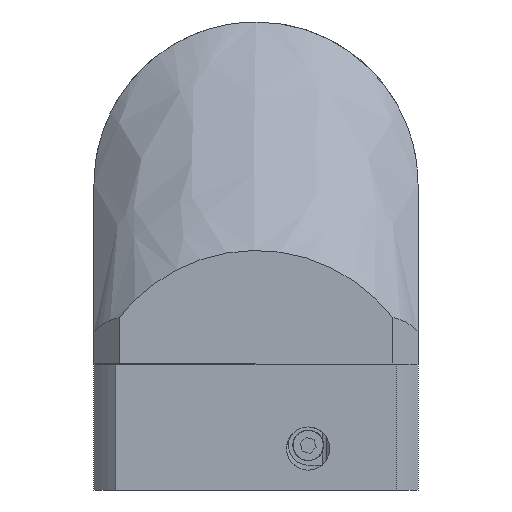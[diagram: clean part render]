
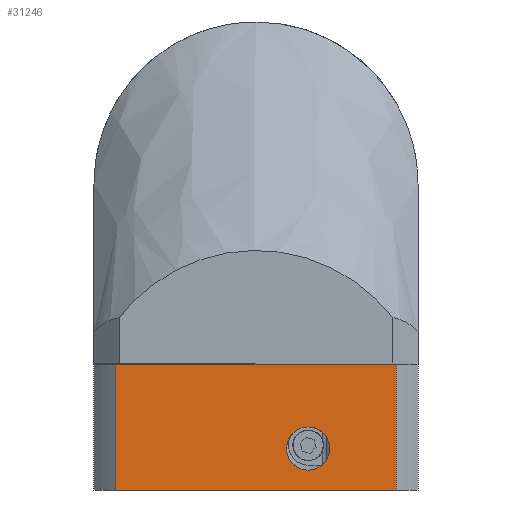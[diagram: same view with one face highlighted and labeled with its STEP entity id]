
A CAD part, front view. The second image highlights one B-rep face of the part: STEP entity #31246.
In plain terms, the highlighted planar face has unit normal (0, -1, 0) as drawn and (0, 0, 1) by its records, which use the part's own axes.
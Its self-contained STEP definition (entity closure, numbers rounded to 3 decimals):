
#687 = DIRECTION ( 'NONE',  ( 0., 0., 1. ) ) ;
#2014 = ORIENTED_EDGE ( 'NONE', *, *, #21950, .T. ) ;
#2053 = VERTEX_POINT ( 'NONE', #6474 ) ;
#3488 = DIRECTION ( 'NONE',  ( 0., -1., 0. ) ) ;
#3887 = VERTEX_POINT ( 'NONE', #11745 ) ;
#3968 = EDGE_CURVE ( 'NONE', #22329, #22515, #23449, .T. ) ;
#4681 = EDGE_CURVE ( 'NONE', #3887, #12898, #14961, .T. ) ;
#4932 = EDGE_CURVE ( 'NONE', #11201, #3887, #19129, .T. ) ;
#5959 = VECTOR ( 'NONE', #24768, 1000. ) ;
#6136 = LINE ( 'NONE', #13408, #31743 ) ;
#6474 = CARTESIAN_POINT ( 'NONE',  ( 0., 38.926, 45. ) ) ;
#7179 = EDGE_CURVE ( 'NONE', #12898, #2053, #16003, .T. ) ;
#7269 = CARTESIAN_POINT ( 'NONE',  ( 35., 59.5, 45. ) ) ;
#7371 = EDGE_LOOP ( 'NONE', ( #27890, #22112 ) ) ;
#9913 = DIRECTION ( 'NONE',  ( 1., 0., 0. ) ) ;
#9952 = DIRECTION ( 'NONE',  ( 0., 0., -1. ) ) ;
#9974 = CARTESIAN_POINT ( 'NONE',  ( 11.5, -14.5, 45. ) ) ;
#10837 = CARTESIAN_POINT ( 'NONE',  ( 11.5, -14.5, 45. ) ) ;
#11201 = VERTEX_POINT ( 'NONE', #12403 ) ;
#11745 = CARTESIAN_POINT ( 'NONE',  ( 35., -38.926, 45. ) ) ;
#12403 = CARTESIAN_POINT ( 'NONE',  ( 0., -38.926, 45. ) ) ;
#12898 = VERTEX_POINT ( 'NONE', #20907 ) ;
#12995 = AXIS2_PLACEMENT_3D ( 'NONE', #9974, #9952, #9913 ) ;
#13024 = PLANE ( 'NONE',  #14506 ) ;
#13359 = DIRECTION ( 'NONE',  ( 1., 0., 0. ) ) ;
#13408 = CARTESIAN_POINT ( 'NONE',  ( 0., -45., 45. ) ) ;
#13885 = ORIENTED_EDGE ( 'NONE', *, *, #4681, .T. ) ;
#14506 = AXIS2_PLACEMENT_3D ( 'NONE', #15654, #687, #18163 ) ;
#14914 = FACE_BOUND ( 'NONE', #7371, .T. ) ;
#14961 = LINE ( 'NONE', #7269, #5959 ) ;
#15654 = CARTESIAN_POINT ( 'NONE',  ( 59., -45., 45. ) ) ;
#15971 = VECTOR ( 'NONE', #27692, 1000. ) ;
#16003 = LINE ( 'NONE', #27309, #15971 ) ;
#16357 = ORIENTED_EDGE ( 'NONE', *, *, #4932, .T. ) ;
#18163 = DIRECTION ( 'NONE',  ( 1., 0., 0. ) ) ;
#18167 = ORIENTED_EDGE ( 'NONE', *, *, #7179, .T. ) ;
#19129 = LINE ( 'NONE', #31616, #26082 ) ;
#20907 = CARTESIAN_POINT ( 'NONE',  ( 35., 38.926, 45. ) ) ;
#21534 = FACE_OUTER_BOUND ( 'NONE', #21930, .T. ) ;
#21930 = EDGE_LOOP ( 'NONE', ( #16357, #13885, #18167, #2014 ) ) ;
#21950 = EDGE_CURVE ( 'NONE', #2053, #11201, #6136, .T. ) ;
#22112 = ORIENTED_EDGE ( 'NONE', *, *, #25173, .T. ) ;
#22329 = VERTEX_POINT ( 'NONE', #22558 ) ;
#22515 = VERTEX_POINT ( 'NONE', #23413 ) ;
#22558 = CARTESIAN_POINT ( 'NONE',  ( 17.5, -14.5, 45. ) ) ;
#23413 = CARTESIAN_POINT ( 'NONE',  ( 5.5, -14.5, 45. ) ) ;
#23449 = CIRCLE ( 'NONE', #12995, 6. ) ;
#24300 = AXIS2_PLACEMENT_3D ( 'NONE', #10837, #28257, #13359 ) ;
#24768 = DIRECTION ( 'NONE',  ( 0., 1., 0. ) ) ;
#25173 = EDGE_CURVE ( 'NONE', #22515, #22329, #27508, .T. ) ;
#26082 = VECTOR ( 'NONE', #31324, 1000. ) ;
#27309 = CARTESIAN_POINT ( 'NONE',  ( 59., 38.926, 45. ) ) ;
#27508 = CIRCLE ( 'NONE', #24300, 6. ) ;
#27692 = DIRECTION ( 'NONE',  ( -1., 0., 0. ) ) ;
#27890 = ORIENTED_EDGE ( 'NONE', *, *, #3968, .T. ) ;
#28257 = DIRECTION ( 'NONE',  ( 0., 0., -1. ) ) ;
#31246 = ADVANCED_FACE ( 'NONE', ( #21534, #14914 ), #13024, .T. ) ;
#31324 = DIRECTION ( 'NONE',  ( 1., 0., 0. ) ) ;
#31616 = CARTESIAN_POINT ( 'NONE',  ( 59., -38.926, 45. ) ) ;
#31743 = VECTOR ( 'NONE', #3488, 1000. ) ;
